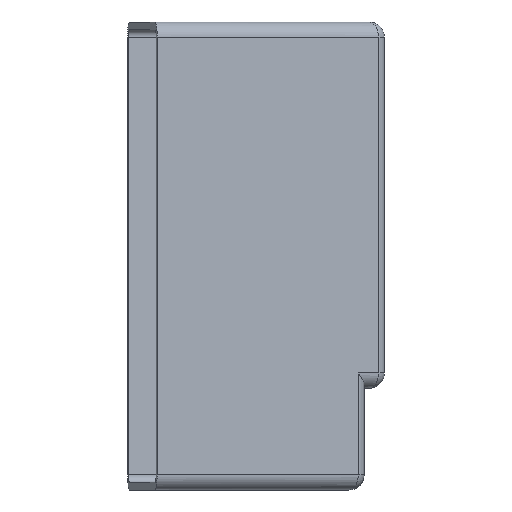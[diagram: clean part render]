
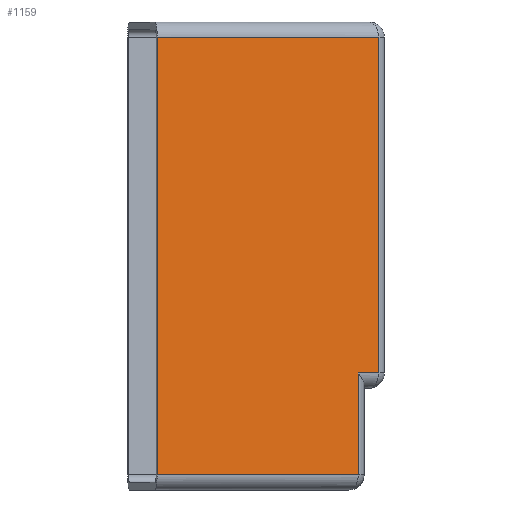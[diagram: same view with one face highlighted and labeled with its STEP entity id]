
A CAD part, left-side view. The second image highlights one B-rep face of the part: STEP entity #1159.
In plain terms, the highlighted planar face has unit normal (-0.79, -0.613, 0).
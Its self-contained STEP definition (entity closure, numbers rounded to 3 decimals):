
#41=PLANE('',#1333);
#122=LINE('',#2033,#207);
#126=LINE('',#2065,#211);
#146=LINE('',#2134,#231);
#149=LINE('',#2139,#234);
#153=LINE('',#2149,#238);
#154=LINE('',#2151,#239);
#207=VECTOR('',#1577,10.);
#211=VECTOR('',#1613,10.);
#231=VECTOR('',#1693,10.);
#234=VECTOR('',#1698,10.);
#238=VECTOR('',#1710,10.);
#239=VECTOR('',#1713,10.);
#352=FACE_OUTER_BOUND('',#430,.T.);
#430=EDGE_LOOP('',(#1028,#1029,#1030,#1031,#1032,#1033));
#553=VERTEX_POINT('',#2022);
#556=VERTEX_POINT('',#2032);
#565=VERTEX_POINT('',#2054);
#566=VERTEX_POINT('',#2058);
#587=VERTEX_POINT('',#2132);
#589=VERTEX_POINT('',#2145);
#690=EDGE_CURVE('',#556,#553,#122,.T.);
#705=EDGE_CURVE('',#566,#565,#126,.T.);
#741=EDGE_CURVE('',#587,#566,#146,.T.);
#744=EDGE_CURVE('',#565,#556,#149,.T.);
#750=EDGE_CURVE('',#553,#589,#153,.T.);
#751=EDGE_CURVE('',#589,#587,#154,.T.);
#1028=ORIENTED_EDGE('',*,*,#750,.F.);
#1029=ORIENTED_EDGE('',*,*,#690,.F.);
#1030=ORIENTED_EDGE('',*,*,#744,.F.);
#1031=ORIENTED_EDGE('',*,*,#705,.F.);
#1032=ORIENTED_EDGE('',*,*,#741,.F.);
#1033=ORIENTED_EDGE('',*,*,#751,.F.);
#1159=ADVANCED_FACE('',(#352),#41,.T.);
#1333=AXIS2_PLACEMENT_3D('',#2150,#1711,#1712);
#1577=DIRECTION('',(0.,0.,-1.));
#1613=DIRECTION('',(0.,0.,-1.));
#1693=DIRECTION('',(0.613,-0.79,0.));
#1698=DIRECTION('',(-0.613,0.79,0.));
#1710=DIRECTION('',(-0.613,0.79,0.));
#1711=DIRECTION('center_axis',(-0.79,-0.613,0.));
#1712=DIRECTION('ref_axis',(0.613,-0.79,0.));
#1713=DIRECTION('',(0.,0.,1.));
#2022=CARTESIAN_POINT('',(-35.007,5.16,3.));
#2032=CARTESIAN_POINT('',(-35.007,5.16,23.));
#2033=CARTESIAN_POINT('',(-35.007,5.16,0.));
#2054=CARTESIAN_POINT('',(-31.901,1.16,23.));
#2058=CARTESIAN_POINT('',(-31.901,1.16,89.));
#2065=CARTESIAN_POINT('',(-31.901,1.16,0.));
#2132=CARTESIAN_POINT('',(-65.696,44.683,89.));
#2134=CARTESIAN_POINT('',(-53.765,29.318,89.));
#2139=CARTESIAN_POINT('',(-45.45,18.61,23.));
#2145=CARTESIAN_POINT('',(-65.696,44.683,3.));
#2149=CARTESIAN_POINT('',(-53.765,29.318,3.));
#2150=CARTESIAN_POINT('Origin',(-65.696,44.683,0.));
#2151=CARTESIAN_POINT('',(-65.696,44.683,0.));
